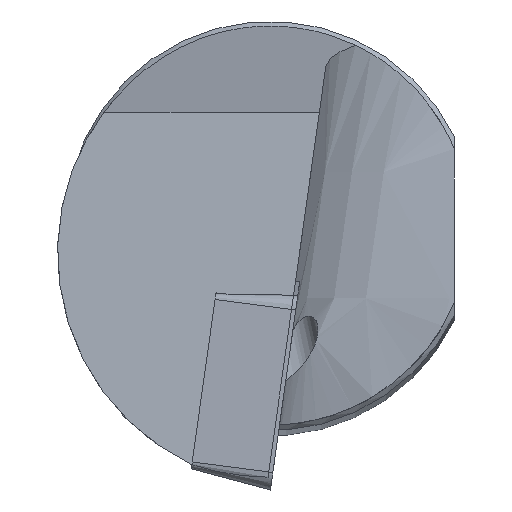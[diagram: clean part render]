
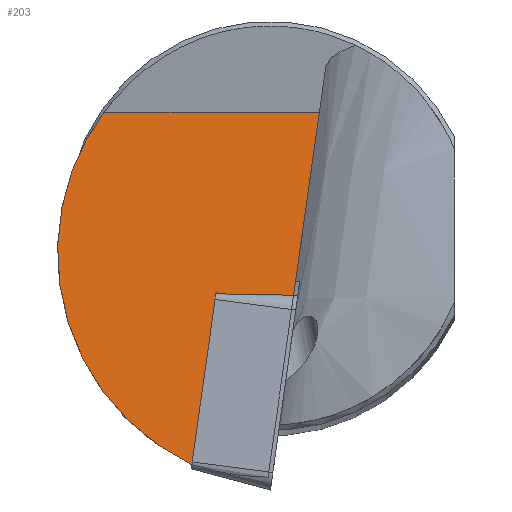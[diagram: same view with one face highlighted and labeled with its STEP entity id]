
A CAD part, top view. The second image highlights one B-rep face of the part: STEP entity #203.
In plain terms, the highlighted planar face has unit normal (0, 0.088, 0.996).
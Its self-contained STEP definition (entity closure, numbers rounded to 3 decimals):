
#137=PLANE('',#553);
#149=LINE('',#746,#175);
#150=LINE('',#748,#176);
#175=VECTOR('',#606,1.);
#176=VECTOR('',#607,1.);
#203=ADVANCED_FACE('',(#237),#137,.F.);
#237=FACE_OUTER_BOUND('',#259,.T.);
#259=EDGE_LOOP('',(#324,#325,#326,#327));
#324=ORIENTED_EDGE('',*,*,#479,.T.);
#325=ORIENTED_EDGE('',*,*,#486,.F.);
#326=ORIENTED_EDGE('',*,*,#487,.T.);
#327=ORIENTED_EDGE('',*,*,#488,.F.);
#438=VERTEX_POINT('',#718);
#439=VERTEX_POINT('',#719);
#444=VERTEX_POINT('',#747);
#445=VERTEX_POINT('',#749);
#479=EDGE_CURVE('',#438,#439,#540,.T.);
#486=EDGE_CURVE('',#444,#439,#149,.T.);
#487=EDGE_CURVE('',#444,#445,#150,.T.);
#488=EDGE_CURVE('',#438,#445,#541,.T.);
#540=ELLIPSE('',#547,12.284,12.236);
#541=ELLIPSE('',#552,11.522,11.477);
#547=AXIS2_PLACEMENT_3D('',#717,#596,#597);
#552=AXIS2_PLACEMENT_3D('',#750,#608,#609);
#553=AXIS2_PLACEMENT_3D('',#751,#610,#611);
#596=DIRECTION('',(0.,0.088,0.996));
#597=DIRECTION('',(0.,-0.996,0.088));
#606=DIRECTION('',(-0.139,-0.986,0.087));
#607=DIRECTION('',(-1.,0.,0.));
#608=DIRECTION('',(0.,-0.088,-0.996));
#609=DIRECTION('',(0.,-0.996,0.088));
#610=DIRECTION('',(0.,-0.088,-0.996));
#611=DIRECTION('',(0.,0.996,-0.088));
#717=CARTESIAN_POINT('',(0.,-0.095,-2.37));
#718=CARTESIAN_POINT('',(-3.828,-11.717,-1.343));
#719=CARTESIAN_POINT('',(-0.107,-12.331,-1.289));
#746=CARTESIAN_POINT('',(0.031,-11.349,-1.375));
#747=CARTESIAN_POINT('',(2.399,5.5,-2.864));
#748=CARTESIAN_POINT('',(-12.4,5.5,-2.864));
#749=CARTESIAN_POINT('',(-8.129,5.5,-2.864));
#750=CARTESIAN_POINT('',(1.084,-1.344,-2.259));
#751=CARTESIAN_POINT('',(-12.4,-15.799,-0.982));
